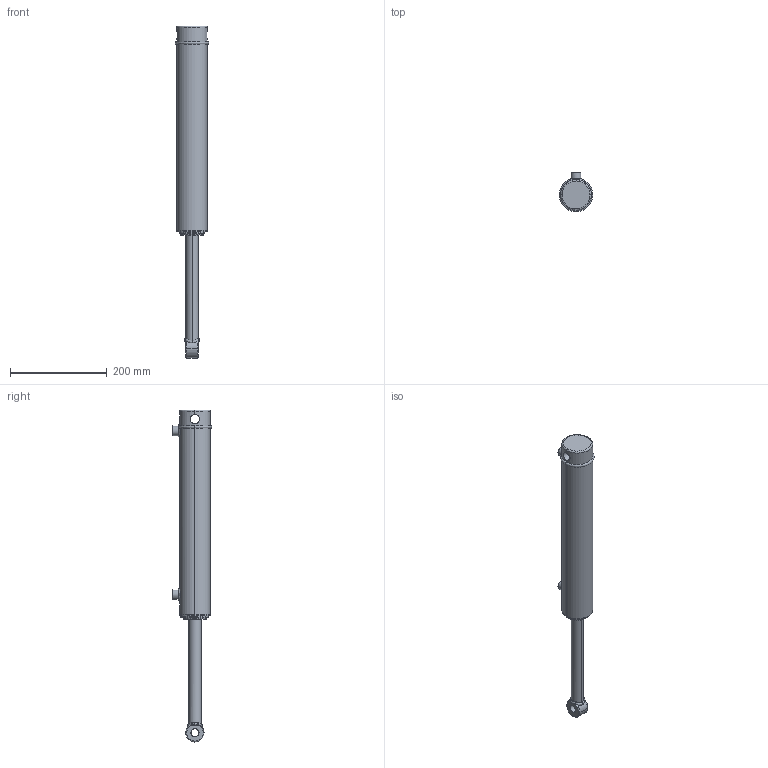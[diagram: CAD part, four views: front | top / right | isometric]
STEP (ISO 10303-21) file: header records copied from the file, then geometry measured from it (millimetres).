
FILE_DESCRIPTION (( 'STEP AP203' ), '1' );
FILE_NAME ('SB-C200100X305 (12) extended.STEP', '2014-12-01T23:46:17', ( '' ), ( '' ), 'SwSTEP 2.0', 'SolidWorks 2014', '' );
FILE_SCHEMA (( 'CONFIG_CONTROL_DESIGN' ));
Length unit declared in the file: millimetre
Products named in the file (5): SB-C2 12 SPARE; SB-C200100X305 (12) extended; SB-C200100X305 (12) BODY; 2 inch circlip
Assembly tree (4 placements, depth 3):
  SB-C200100X305 (12) extended
    SB-C200100X305 (12) BODY
    2 inch circlip
    SB-C2 12 SPARE
      SB-C2 12 SPARE
Bounding box: 69.5 x 81.5 x 685 mm (x, y, z)
Volume: 1445504.8 mm3; surface area: 159506.6 mm2
Topology: 3 solids, 3 shells, 130 faces, 324 edges, 203 vertices
Faces by surface type: cylinder 51, bspline 25, plane 25, torus 21, cone 8
Entity records: 9343 total; most frequent: CARTESIAN_POINT 5899, ORIENTED_EDGE 640, DIRECTION 595, EDGE_CURVE 320, AXIS2_PLACEMENT_3D 263, VERTEX_POINT 203, CIRCLE 150, EDGE_LOOP 149
